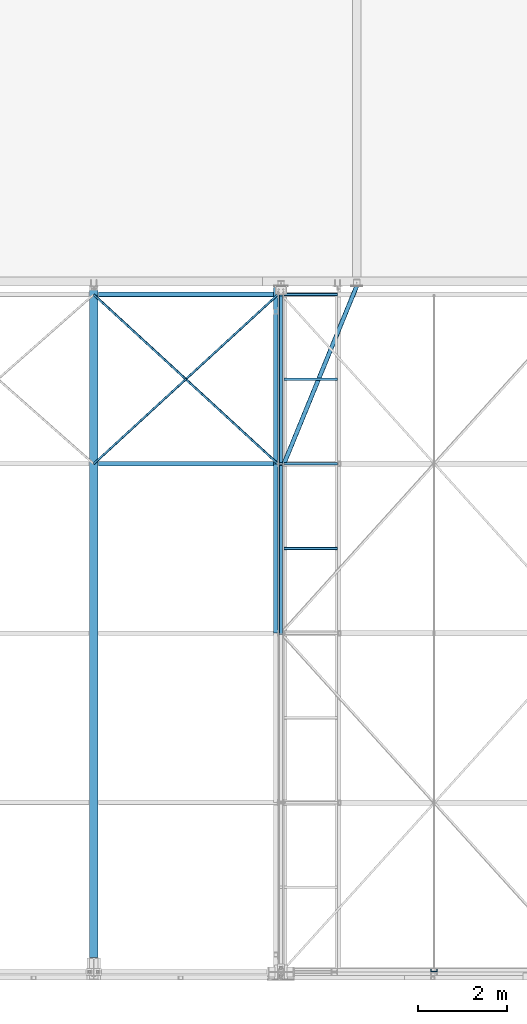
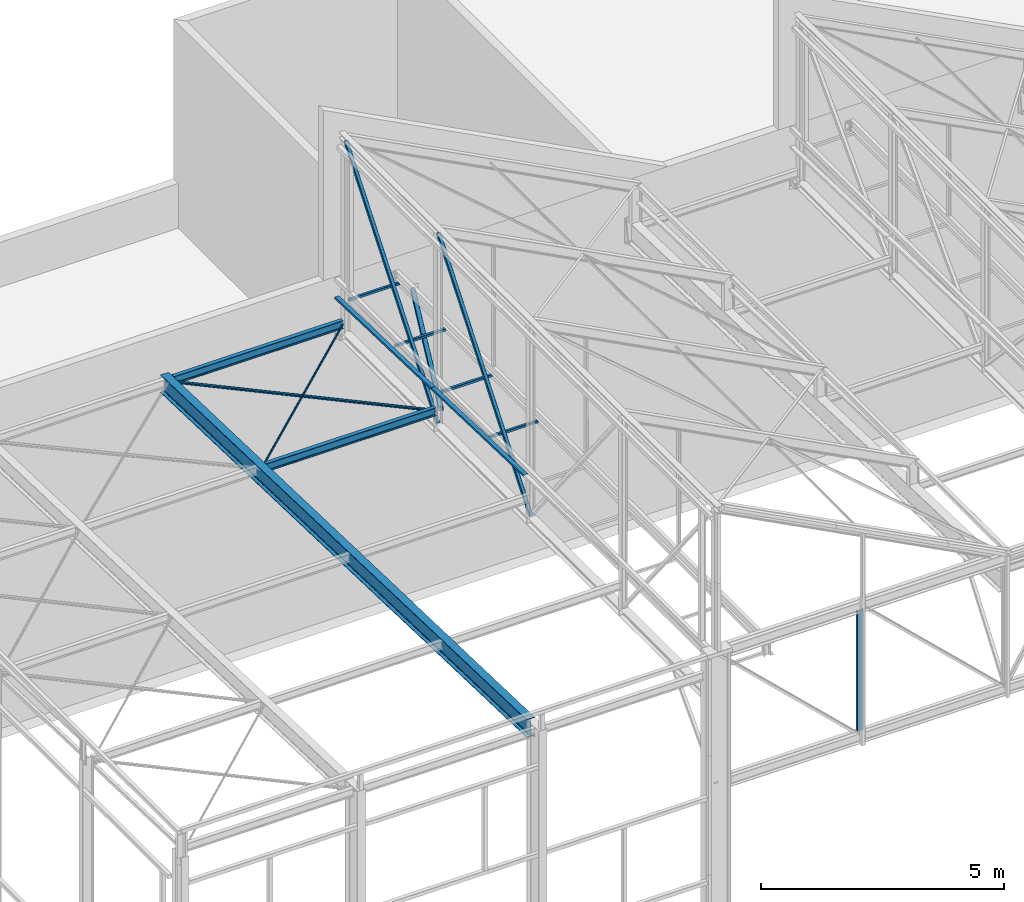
# One storey, part 28 of 123: 13 beams, 2 members, 15 elements without a shape of their own.
"""IFC2X3 building model written with IfcOpenShell, lengths in millimetres."""

from ifc_helpers import new_model, si_unit, frame, origin_with_axes, origin_2d_with_axis, place, context, subcontext, project, spatial, hollow_rectangle, i_section, l_section, u_section, extrude, clip, halfspace, material, type_object, element, aggregate, save


model = new_model("IFC2X3")

# Units and contexts
model_context = context("Model", 3, precision=1e-05, world=origin_with_axes())
body_context = subcontext(model_context, "Body", "Model", "MODEL_VIEW")
ifc_project = project(units=[si_unit("LENGTHUNIT", "METRE", prefix="MILLI"), si_unit("AREAUNIT", "SQUARE_METRE"), si_unit("VOLUMEUNIT", "CUBIC_METRE"), si_unit("MASSUNIT", "GRAM", prefix="KILO"), si_unit("TIMEUNIT", "SECOND"), si_unit("PLANEANGLEUNIT", "RADIAN"), si_unit("SOLIDANGLEUNIT", "STERADIAN"), si_unit("THERMODYNAMICTEMPERATUREUNIT", "DEGREE_CELSIUS"), si_unit("LUMINOUSINTENSITYUNIT", "LUMEN")], contexts=[model_context])

# Site, building, storey
site_placement = place(None, origin_with_axes())
site = spatial("IfcSite", under=ifc_project, at=site_placement, Name="Undefined", CompositionType="ELEMENT")
building_placement = place(site_placement, origin_with_axes())
building = spatial("IfcBuilding", under=site, at=building_placement, Name="Undefined", CompositionType="ELEMENT")
storey_placement = place(building_placement, origin_with_axes())
storey = spatial("IfcBuildingStorey", under=building, at=storey_placement, Name="Undefined", CompositionType="ELEMENT", Elevation=0.0)

# Assembly, beam
assembly_1_placement = place(storey_placement, origin_with_axes())
assembly_1 = element("IfcElementAssembly", 1, at=assembly_1_placement, inside=storey, Name="Steel Assembly", AssemblyPlace="NOTDEFINED", PredefinedType="RIGID_FRAME")
ifc_material_1 = material(Name="STEEL/S235-E24")
beam_type_1 = type_object("IfcBeamType", Name="UPF-100*50*4", PredefinedType="NOTDEFINED")
beam_1_placement = place(assembly_1_placement, frame((12563.5000000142, 11400.0, 8171.98873515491), z_axis=(1.0, 0.0, 0.0), x_axis=(0.0, 0.999506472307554, -0.0314135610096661)))
beam_1 = element("IfcBeam", 2, at=beam_1_placement, type_object=beam_type_1, material=ifc_material_1, Name="LISSE CONTREBARDAGE", ObjectType="UPF-100*50*4", context=body_context, shape_type="Clipping", body=[
    clip(extrude(u_section(Depth=100.0, FlangeWidth=50.0, WebThickness=4.0, FlangeThickness=4.0, at=origin_2d_with_axis()), frame((3991.97014790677, 0.0, 0.0), z_axis=(-1.0, 0.0, 0.0), x_axis=(0.0, -1.0, 0.0)), (0.0, 0.0, 1.0), 3992.0), halfspace(frame((3962.74106203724, -25.0, -50.0), z_axis=(0.999506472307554, 0.0314135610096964, 0.0), x_axis=(0.0, 0.0, 1.0)), False)),
])
aggregate(assembly_1, [beam_1])

assembly_2_placement = place(storey_placement, origin_with_axes())
assembly_2 = element("IfcElementAssembly", 3, at=assembly_2_placement, inside=storey, Name="Steel Assembly", AssemblyPlace="NOTDEFINED", PredefinedType="RIGID_FRAME")
beam_2_placement = place(assembly_2_placement, frame((12563.5000000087, 7600.0, 8291.42237510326), z_axis=(1.0, 0.0, 0.0), x_axis=(0.0, 0.999506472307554, -0.0314135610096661)))
beam_2 = element("IfcBeam", 4, at=beam_2_placement, type_object=beam_type_1, material=ifc_material_1, Name="LISSE CONTREBARDAGE", ObjectType="UPF-100*50*4", context=body_context, shape_type="SweptSolid", body=[
    extrude(u_section(Depth=100.0, FlangeWidth=50.0, WebThickness=4.0, FlangeThickness=4.0, at=origin_2d_with_axis()), frame((3801.87643069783, 2.63808171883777e-14, 0.0), z_axis=(-1.0, 0.0, 0.0), x_axis=(0.0, -1.0, 0.0)), (0.0, 0.0, 1.0), 3801.9),
])
aggregate(assembly_2, [beam_2])

assembly_3_placement = place(storey_placement, origin_with_axes())
assembly_3 = element("IfcElementAssembly", 5, at=assembly_3_placement, inside=storey, Name="Steel Assembly", AssemblyPlace="NOTDEFINED", PredefinedType="RIGID_FRAME")
ifc_material_2 = material(Name="STEEL/S275-E28")
beam_type_2 = type_object("IfcBeamType", Name="IPE450", PredefinedType="NOTDEFINED")
beam_3_placement = place(assembly_3_placement, frame((8480.00000000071, -7.06742078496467, 7825.11102391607), z_axis=(0.0, -0.0314107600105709, -0.999506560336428), x_axis=(0.0, 0.999506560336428, -0.0314107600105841)))
beam_3 = element("IfcBeam", 6, at=beam_3_placement, type_object=beam_type_2, material=ifc_material_2, Name="TRAVERSE", ObjectType="IPE450", context=body_context, shape_type="Clipping", body=[
    clip(clip(extrude(i_section(OverallWidth=190.0, OverallDepth=450.0, WebThickness=9.399999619, FlangeThickness=14.60000038, FilletRadius=21.0, at=origin_2d_with_axis()), frame((15397.5977849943, 0.0, 0.0), z_axis=(-1.0, 0.0, 0.0), x_axis=(0.0, -1.0, 0.0)), (0.0, 0.0, 1.0), 15397.6), halfspace(frame((15367.5829744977, -95.0, -224.999999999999), z_axis=(0.999506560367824, 0.0, -0.0314107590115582), x_axis=(0.0314107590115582, 0.0, 0.999506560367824)), False)), halfspace(frame((320.157978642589, 95.0, -224.999999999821), z_axis=(-0.999506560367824, 0.0, 0.0314107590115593), x_axis=(0.0314107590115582, 0.0, 0.999506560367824)), False)),
])
aggregate(assembly_3, [beam_3])

assembly_4_placement = place(storey_placement, origin_with_axes())
assembly_4 = element("IfcElementAssembly", 7, at=assembly_4_placement, inside=storey, Name="Steel Assembly", AssemblyPlace="NOTDEFINED", PredefinedType="RIGID_FRAME")
beam_type_3 = type_object("IfcBeamType", Name="UPN140", PredefinedType="NOTDEFINED")
beam_4_placement = place(assembly_4_placement, frame((16115.0, 35.0, 8269.99444626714), z_axis=(-1.0, 0.0, 0.0), x_axis=(0.0, 0.0, -1.0)))
beam_4 = element("IfcBeam", 8, at=beam_4_placement, type_object=beam_type_3, material=ifc_material_2, Name="MONTANT", ObjectType="UPN140", context=body_context, shape_type="SweptSolid", body=[
    extrude(u_section(Depth=140.0, FlangeWidth=60.0, WebThickness=7.0, FlangeThickness=10.0, FilletRadius=10.0, EdgeRadius=5.0, FlangeSlope=0.0798299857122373, at=origin_2d_with_axis()), frame((3009.99444626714, 0.0, 0.0), z_axis=(-1.0, 0.0, 0.0), x_axis=(0.0, -1.0, 0.0)), (0.0, 0.0, 1.0), 3010.0),
])
aggregate(assembly_4, [beam_4])

assembly_5_placement = place(storey_placement, origin_with_axes())
assembly_5 = element("IfcElementAssembly", 9, at=assembly_5_placement, inside=storey, Name="Steel Assembly", AssemblyPlace="NOTDEFINED", PredefinedType="RIGID_FRAME")
beam_type_4 = type_object("IfcBeamType", Name="TUBE-C-60*60*3", PredefinedType="NOTDEFINED")
beam_5_placement = place(assembly_5_placement, frame((12751.5083416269, 13300.0, 8015.0), z_axis=(0.0, -1.0, 0.0), x_axis=(1.0, 0.0, 0.0)))
beam_5 = element("IfcBeam", 10, at=beam_5_placement, type_object=beam_type_4, material=ifc_material_1, Name="SOLIVE", ObjectType="TUBE-C-60*60*3", context=body_context, shape_type="SweptSolid", body=[
    extrude(hollow_rectangle(XDim=60.0, YDim=60.0, WallThickness=3.0, InnerFilletRadius=3.0, OuterFilletRadius=6.0, at=origin_2d_with_axis()), frame((1194.99154388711, 0.0, 0.0), z_axis=(-1.0, 0.0, 0.0), x_axis=(0.0, -1.0, 0.0)), (0.0, 0.0, 1.0), 1195.0),
])
aggregate(assembly_5, [beam_5])

assembly_6_placement = place(storey_placement, origin_with_axes())
assembly_6 = element("IfcElementAssembly", 11, at=assembly_6_placement, inside=storey, Name="Steel Assembly", AssemblyPlace="NOTDEFINED", PredefinedType="RIGID_FRAME")
beam_6_placement = place(assembly_6_placement, frame((12751.5083416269, 9500.0, 8015.0), z_axis=(0.0, -1.0, 0.0), x_axis=(1.0, 0.0, 0.0)))
beam_6 = element("IfcBeam", 12, at=beam_6_placement, type_object=beam_type_4, material=ifc_material_1, Name="SOLIVE", ObjectType="TUBE-C-60*60*3", context=body_context, shape_type="SweptSolid", body=[
    extrude(hollow_rectangle(XDim=60.0, YDim=60.0, WallThickness=3.0, InnerFilletRadius=3.0, OuterFilletRadius=6.0, at=origin_2d_with_axis()), frame((1194.99154388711, 0.0, 0.0), z_axis=(-1.0, 0.0, 0.0), x_axis=(0.0, -1.0, 0.0)), (0.0, 0.0, 1.0), 1195.0),
])
aggregate(assembly_6, [beam_6])

assembly_7_placement = place(storey_placement, origin_with_axes())
assembly_7 = element("IfcElementAssembly", 13, at=assembly_7_placement, inside=storey, Name="Steel Assembly", AssemblyPlace="NOTDEFINED", PredefinedType="RIGID_FRAME")
beam_7_placement = place(assembly_7_placement, frame((12751.5083416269, 15200.0, 8015.0), z_axis=(0.0, -1.0, 0.0), x_axis=(1.0, 0.0, 0.0)))
beam_7 = element("IfcBeam", 14, at=beam_7_placement, type_object=beam_type_4, material=ifc_material_1, Name="SOLIVE", ObjectType="TUBE-C-60*60*3", context=body_context, shape_type="SweptSolid", body=[
    extrude(hollow_rectangle(XDim=60.0, YDim=60.0, WallThickness=3.0, InnerFilletRadius=3.0, OuterFilletRadius=6.0, at=origin_2d_with_axis()), frame((1194.99154388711, 0.0, 0.0), z_axis=(-1.0, 0.0, 0.0), x_axis=(0.0, -1.0, 0.0)), (0.0, 0.0, 1.0), 1195.0),
])
aggregate(assembly_7, [beam_7])

assembly_8_placement = place(storey_placement, origin_with_axes())
assembly_8 = element("IfcElementAssembly", 15, at=assembly_8_placement, inside=storey, Name="Steel Assembly", AssemblyPlace="NOTDEFINED", PredefinedType="RIGID_FRAME")
beam_8_placement = place(assembly_8_placement, frame((12751.5083416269, 11400.0, 8015.0), z_axis=(0.0, -1.0, 0.0), x_axis=(1.0, 0.0, 0.0)))
beam_8 = element("IfcBeam", 16, at=beam_8_placement, type_object=beam_type_4, material=ifc_material_1, Name="SOLIVE", ObjectType="TUBE-C-60*60*3", context=body_context, shape_type="SweptSolid", body=[
    extrude(hollow_rectangle(XDim=60.0, YDim=60.0, WallThickness=3.0, InnerFilletRadius=3.0, OuterFilletRadius=6.0, at=origin_2d_with_axis()), frame((1194.99154388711, 0.0, 0.0), z_axis=(-1.0, 0.0, 0.0), x_axis=(0.0, -1.0, 0.0)), (0.0, 0.0, 1.0), 1195.0),
])
aggregate(assembly_8, [beam_8])

assembly_9_placement = place(storey_placement, origin_with_axes())
assembly_9 = element("IfcElementAssembly", 17, at=assembly_9_placement, inside=storey, Name="Steel Assembly", AssemblyPlace="NOTDEFINED", PredefinedType="RIGID_FRAME")
beam_type_5 = type_object("IfcBeamType", Name="TUBE-C-100*100*4", PredefinedType="NOTDEFINED")
beam_9_placement = place(assembly_9_placement, frame((12746.5081706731, 11400.0000000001, 7591.69334987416), z_axis=(0.0, -1.05500000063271e-06, 0.999999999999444), x_axis=(0.378875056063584, 0.925447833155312, 9.77000000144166e-07)))
beam_9 = element("IfcBeam", 18, at=beam_9_placement, type_object=beam_type_5, material=ifc_material_1, Name="BUTON", ObjectType="TUBE-C-100*100*4", context=body_context, shape_type="Clipping", body=[
    clip(extrude(hollow_rectangle(XDim=100.0, YDim=100.0, WallThickness=4.0, InnerFilletRadius=4.0, OuterFilletRadius=8.0, at=origin_2d_with_axis()), frame((4367.51388359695, 4.19503271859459e-13, -9.09494701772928e-13), z_axis=(-1.0, 0.0, 0.0), x_axis=(0.0, -1.0, 0.0)), (0.0, 0.0, 1.0), 4367.5), halfspace(frame((4286.90779017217, 59.8878606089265, -1.14087197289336e-06), z_axis=(-0.925447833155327, -0.378875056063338, 1.05499999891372e-06), x_axis=(9.76347462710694e-07, 3.99713184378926e-07, 0.999999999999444)), True)),
])
aggregate(assembly_9, [beam_9])

# Assembly, member
assembly_10_placement = place(storey_placement, origin_with_axes())
assembly_10 = element("IfcElementAssembly", 19, at=assembly_10_placement, inside=storey, Name="Steel Assembly", AssemblyPlace="NOTDEFINED", PredefinedType="RIGID_FRAME")
member_type = type_object("IfcMemberType", Name="TUBE-C-80*80*4", PredefinedType="NOTDEFINED")
member_1_placement = place(assembly_10_placement, frame((12680.0000000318, 11400.0000000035, 12037.0), z_axis=(-1.0, 0.0, 0.0), x_axis=(0.0, -0.621737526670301, -0.783225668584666)))
member_1 = element("IfcMember", 20, at=member_1_placement, type_object=member_type, material=ifc_material_1, Name="DIAGONALE", ObjectType="TUBE-C-80*80*4", context=body_context, shape_type="SweptSolid", body=[
    extrude(hollow_rectangle(XDim=80.0, YDim=80.0, WallThickness=4.0, InnerFilletRadius=4.0, OuterFilletRadius=8.0, at=origin_2d_with_axis()), frame((6111.9038768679, 0.0, 0.0), z_axis=(-1.0, 0.0, 0.0), x_axis=(0.0, -1.0, 0.0)), (0.0, 0.0, 1.0), 6111.9),
])
aggregate(assembly_10, [member_1])

assembly_11_placement = place(storey_placement, origin_with_axes())
assembly_11 = element("IfcElementAssembly", 21, at=assembly_11_placement, inside=storey, Name="Steel Assembly", AssemblyPlace="NOTDEFINED", PredefinedType="RIGID_FRAME")
member_2_placement = place(assembly_11_placement, frame((12680.0000000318, 15200.0000000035, 12037.0), z_axis=(-1.0, 0.0, 0.0), x_axis=(0.0, -0.621737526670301, -0.783225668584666)))
member_2 = element("IfcMember", 22, at=member_2_placement, type_object=member_type, material=ifc_material_1, Name="DIAGONALE", ObjectType="TUBE-C-80*80*4", context=body_context, shape_type="SweptSolid", body=[
    extrude(hollow_rectangle(XDim=80.0, YDim=80.0, WallThickness=4.0, InnerFilletRadius=4.0, OuterFilletRadius=8.0, at=origin_2d_with_axis()), frame((6111.9038768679, 0.0, 0.0), z_axis=(-1.0, 0.0, 0.0), x_axis=(0.0, -1.0, 0.0)), (0.0, 0.0, 1.0), 6111.9),
])
aggregate(assembly_11, [member_2])

# Assembly, beam
assembly_12_placement = place(storey_placement, origin_with_axes())
assembly_12 = element("IfcElementAssembly", 23, at=assembly_12_placement, inside=storey, Name="Steel Assembly", AssemblyPlace="NOTDEFINED", PredefinedType="RIGID_FRAME")
beam_type_6 = type_object("IfcBeamType", Name="L50*5", PredefinedType="NOTDEFINED")
beam_10_placement = place(assembly_12_placement, frame((8480.00002620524, 11399.9990849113, 7591.6884240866), z_axis=(-0.676965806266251, 0.735651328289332, -0.0231175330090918), x_axis=(0.736014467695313, 0.676631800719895, -0.0212628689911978)))
beam_10 = element("IfcBeam", 24, at=beam_10_placement, type_object=beam_type_6, material=ifc_material_1, Name="STABILITE CVT", ObjectType="L50*5", context=body_context, shape_type="SweptSolid", body=[
    extrude(l_section(Depth=50.0, Width=50.0, Thickness=5.0, FilletRadius=7.0, EdgeRadius=3.5, at=origin_2d_with_axis()), frame((5616.05804556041, -9.28979317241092e-13, -2.97140385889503e-13), z_axis=(-1.0, 0.0, 0.0), x_axis=(0.0, -1.0, 0.0)), (0.0, 0.0, 1.0), 5616.1),
])
aggregate(assembly_12, [beam_10])

assembly_13_placement = place(storey_placement, origin_with_axes())
assembly_13 = element("IfcElementAssembly", 25, at=assembly_13_placement, inside=storey, Name="Steel Assembly", AssemblyPlace="NOTDEFINED", PredefinedType="RIGID_FRAME")
beam_11_placement = place(assembly_13_placement, frame((12613.500000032, 11399.9990825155, 7591.68842522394), z_axis=(-0.676965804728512, -0.735651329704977, 0.0231175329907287), x_axis=(-0.7360144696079, 0.676631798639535, -0.0212628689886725)))
beam_11 = element("IfcBeam", 26, at=beam_11_placement, type_object=beam_type_6, material=ifc_material_1, Name="STABILITE CVT", ObjectType="L50*5", context=body_context, shape_type="SweptSolid", body=[
    extrude(l_section(Depth=50.0, Width=50.0, Thickness=5.0, FilletRadius=7.0, EdgeRadius=3.5, at=origin_2d_with_axis()), frame((5616.05804556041, -9.28979317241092e-13, -2.97140385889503e-13), z_axis=(-1.0, 0.0, 0.0), x_axis=(0.0, -1.0, 0.0)), (0.0, 0.0, 1.0), 5616.1),
])
aggregate(assembly_13, [beam_11])

assembly_14_placement = place(storey_placement, origin_with_axes())
assembly_14 = element("IfcElementAssembly", 27, at=assembly_14_placement, inside=storey, Name="Steel Assembly", AssemblyPlace="NOTDEFINED", PredefinedType="RIGID_FRAME")
beam_type_7 = type_object("IfcBeamType", Name="IPE200", PredefinedType="NOTDEFINED")
beam_12_placement = place(assembly_14_placement, frame((8584.99999918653, 15199.9999999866, 7472.27130559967), z_axis=(0.0, 0.0314107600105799, 0.999506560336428), x_axis=(1.0, 0.0, 0.0)))
beam_12 = element("IfcBeam", 28, at=beam_12_placement, type_object=beam_type_7, material=ifc_material_2, Name="PANNE", ObjectType="IPE200", context=body_context, shape_type="SweptSolid", body=[
    extrude(i_section(OverallWidth=100.0, OverallDepth=200.0, WebThickness=5.599999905, FlangeThickness=8.5, FilletRadius=12.0, at=origin_2d_with_axis()), frame((4019.99999999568, 0.0, 0.0), z_axis=(-1.0, 0.0, 0.0), x_axis=(0.0, -1.0, 0.0)), (0.0, 0.0, 1.0), 4020.0),
])
aggregate(assembly_14, [beam_12])

assembly_15_placement = place(storey_placement, origin_with_axes())
assembly_15 = element("IfcElementAssembly", 29, at=assembly_15_placement, inside=storey, Name="Steel Assembly", AssemblyPlace="NOTDEFINED", PredefinedType="RIGID_FRAME")
beam_13_placement = place(assembly_15_placement, frame((8584.99999999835, 11399.9999999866, 7591.69113532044), z_axis=(0.0, 0.0314107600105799, 0.999506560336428), x_axis=(1.0, 0.0, 0.0)))
beam_13 = element("IfcBeam", 30, at=beam_13_placement, type_object=beam_type_7, material=ifc_material_2, Name="PANNE", ObjectType="IPE200", context=body_context, shape_type="SweptSolid", body=[
    extrude(i_section(OverallWidth=100.0, OverallDepth=200.0, WebThickness=5.599999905, FlangeThickness=8.5, FilletRadius=12.0, at=origin_2d_with_axis()), frame((4019.99999999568, 0.0, 0.0), z_axis=(-1.0, 0.0, 0.0), x_axis=(0.0, -1.0, 0.0)), (0.0, 0.0, 1.0), 4020.0),
])
aggregate(assembly_15, [beam_13])

save(model, "model.ifc")
